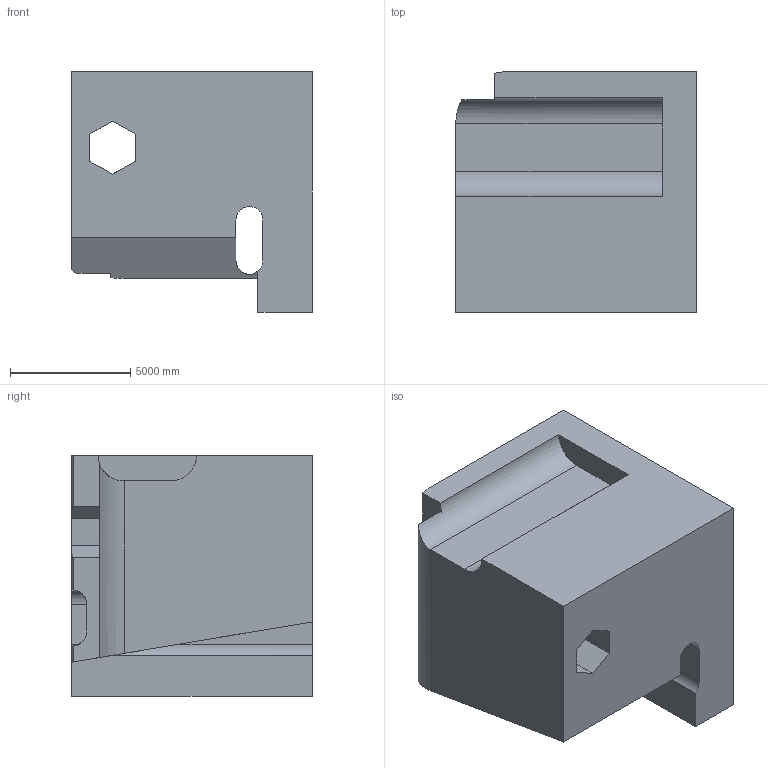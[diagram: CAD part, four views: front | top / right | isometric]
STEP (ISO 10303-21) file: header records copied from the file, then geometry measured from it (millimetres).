
FILE_DESCRIPTION (( 'STEP AP203' ), '1' );
FILE_NAME ('611.STEP', '2022-07-29T12:05:14', ( 'user' ), ( '' ), 'SwSTEP 2.0', 'SolidWorks 2021', '' );
FILE_SCHEMA (( 'CONFIG_CONTROL_DESIGN' ));
Length unit declared in the file: centimetre
Products named in the file (1): 611
Bounding box: 10000 x 10000 x 10000 mm (x, y, z)
Volume: 715686380872.8 mm3; surface area: 662091988.9 mm2
Topology: 1 solids, 1 shells, 34 faces, 105 edges, 70 vertices
Faces by surface type: plane 23, cylinder 11
Entity records: 1385 total; most frequent: CARTESIAN_POINT 375, ORIENTED_EDGE 210, DIRECTION 180, EDGE_CURVE 105, LINE 76, VECTOR 76, VERTEX_POINT 70, AXIS2_PLACEMENT_3D 52
